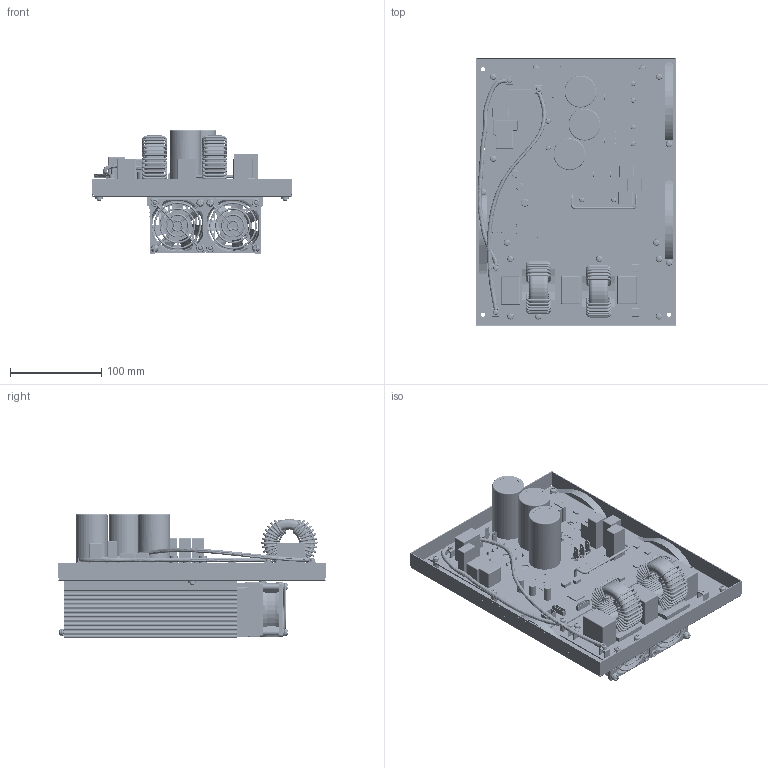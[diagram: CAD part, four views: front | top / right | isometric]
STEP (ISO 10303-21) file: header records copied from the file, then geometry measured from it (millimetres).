
FILE_DESCRIPTION((''),'2;1');
FILE_NAME('ADT-F162-2003_30CC-FAN-OPT_5O1_ASM','2022-02-15T14:10:33',('hschoi'),(''),'CREO PARAMETRIC BY PTC INC, 2019471','CREO PARAMETRIC BY PTC INC, 2019471','');
FILE_SCHEMA(('CONFIG_CONTROL_DESIGN'));
Products named in the file (25): 1_METAL-PLATE_30CC; M_STAND-OFF_M4X10; 1_METAL-PLATE_30CC_ASM; ADT-F162-2033_HEATSINK-30CC_5O2; ADT-F162-1061_FAN-BRKT_MD_1P; E_FAN_60X60X25; M_FAN-NET_60; M4-55L_SCREW; ADT-F162-2014_COVER-HEATSINK; M_SCREW_M4X08_PAN-SEMS; ADT-F162-2008_FAN_HS-ASSY_30CC_ASM; E_PCB-MAIN_30CC; E_CON_5267-06A; E_CON_2EDGV-5O08-03P; E_BD_D25XB60_ANGLE; E_IGBT_M1; E_Q_STGW30H65FB_TO247_ANGLE; SCREW_M3X8_PAN; E_PCB-EMC_30CC; ADT-F162-2052_STICKER-SIDE_WARN; ADT-F162-2021_STICKER-BACK_SPEC; M_RETAINER-COIL; E_WIRE_L1_BROWN; E_WIRE_L2_BLUE; ADT-F162-2003_30CC-FAN-OPT_5O1_ASM
Assembly tree (77 placements, depth 3):
  ADT-F162-2003_30CC-FAN-OPT_5O1_ASM
    1_METAL-PLATE_30CC_ASM
      1_METAL-PLATE_30CC
      M_STAND-OFF_M4X10  x11
    ADT-F162-2008_FAN_HS-ASSY_30CC_ASM
      ADT-F162-2033_HEATSINK-30CC_5O2
      ADT-F162-1061_FAN-BRKT_MD_1P  x2
      E_FAN_60X60X25  x2
      M_FAN-NET_60  x2
      M4-55L_SCREW  x4
      ADT-F162-2014_COVER-HEATSINK
      M_SCREW_M4X08_PAN-SEMS  x2
    M_SCREW_M4X08_PAN-SEMS  x18
    E_PCB-MAIN_30CC
    E_CON_5267-06A  x2
    E_CON_2EDGV-5O08-03P
    E_BD_D25XB60_ANGLE  x2
    E_IGBT_M1
    E_Q_STGW30H65FB_TO247_ANGLE  x4
    SCREW_M3X8_PAN  x12
    E_PCB-EMC_30CC
    ADT-F162-2052_STICKER-SIDE_WARN
    ADT-F162-2021_STICKER-BACK_SPEC
    M_RETAINER-COIL  x3
    E_WIRE_L1_BROWN
    E_WIRE_L2_BLUE
Bounding box: 220.08 x 295 x 135.5 mm (x, y, z)
Volume: 1173955.4 mm3; surface area: 848265.3 mm2
Topology: 93 solids, 127 shells, 9456 faces, 24541 edges, 15331 vertices
Faces by surface type: cylinder 4329, plane 3193, torus 1259, cone 456, bspline 137, sphere 66, extrusion 16
Entity records: 220447 total; most frequent: CARTESIAN_POINT 45577, DIRECTION 39346, ORIENTED_EDGE 35576, EDGE_CURVE 17836, AXIS2_PLACEMENT_3D 15236, VERTEX_POINT 11069, VECTOR 8874, LINE 8862
